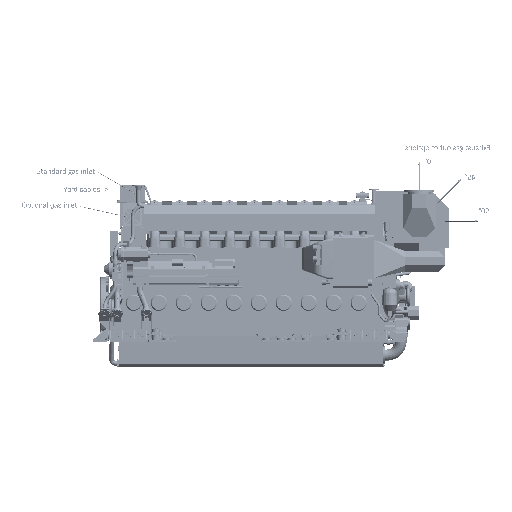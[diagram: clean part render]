
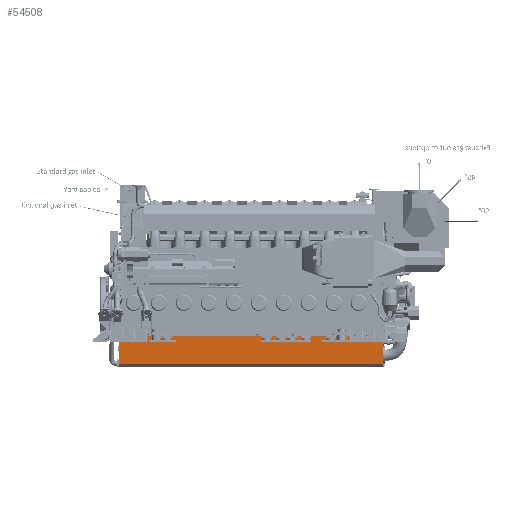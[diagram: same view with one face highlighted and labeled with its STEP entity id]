
A CAD part, front view. The second image highlights one B-rep face of the part: STEP entity #54508.
In plain terms, the highlighted planar face has unit normal (0, -0.999, -0.052).
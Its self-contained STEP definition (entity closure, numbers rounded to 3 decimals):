
#22086=PLANE('',#350282);
#54508=ADVANCED_FACE('',(#78141),#22086,.F.);
#78141=FACE_OUTER_BOUND('',#95987,.T.);
#95987=EDGE_LOOP('',(#167425,#167426,#167427,#167428));
#167425=ORIENTED_EDGE('',*,*,#263525,.T.);
#167426=ORIENTED_EDGE('',*,*,#263565,.F.);
#167427=ORIENTED_EDGE('',*,*,#263550,.F.);
#167428=ORIENTED_EDGE('',*,*,#263564,.T.);
#224708=VERTEX_POINT('',#626213);
#224709=VERTEX_POINT('',#626215);
#224733=VERTEX_POINT('',#626264);
#224734=VERTEX_POINT('',#626266);
#263525=EDGE_CURVE('',#224709,#224708,#296684,.T.);
#263550=EDGE_CURVE('',#224733,#224734,#296698,.T.);
#263564=EDGE_CURVE('',#224733,#224709,#296708,.T.);
#263565=EDGE_CURVE('',#224734,#224708,#296709,.T.);
#296684=LINE('',#626214,#321636);
#296698=LINE('',#626265,#321650);
#296708=LINE('',#626292,#321660);
#296709=LINE('',#626294,#321661);
#321636=VECTOR('',#406649,1.);
#321650=VECTOR('',#406687,1.);
#321660=VECTOR('',#406711,1.);
#321661=VECTOR('',#406714,1.);
#350282=AXIS2_PLACEMENT_3D('',#626295,#406715,#406716);
#406649=DIRECTION('',(0.,-0.052,0.999));
#406687=DIRECTION('',(0.,-0.052,0.999));
#406711=DIRECTION('',(1.,0.,0.));
#406714=DIRECTION('',(1.,0.,0.));
#406715=DIRECTION('',(0.,0.999,0.052));
#406716=DIRECTION('',(0.,-0.052,0.999));
#626213=CARTESIAN_POINT('',(0.,-440.25,-545.));
#626214=CARTESIAN_POINT('',(0.,-412.339,-1079.568));
#626215=CARTESIAN_POINT('',(0.,-412.339,-1079.568));
#626264=CARTESIAN_POINT('',(-5180.,-412.339,-1079.568));
#626265=CARTESIAN_POINT('',(-5180.,-412.339,-1079.568));
#626266=CARTESIAN_POINT('',(-5180.,-440.25,-545.));
#626292=CARTESIAN_POINT('',(-5180.,-412.339,-1079.568));
#626294=CARTESIAN_POINT('',(-5180.,-440.25,-545.));
#626295=CARTESIAN_POINT('',(-5180.,-412.339,-1079.568));
